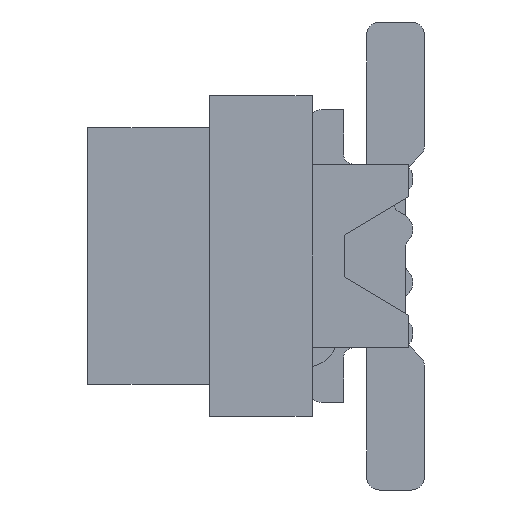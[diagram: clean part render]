
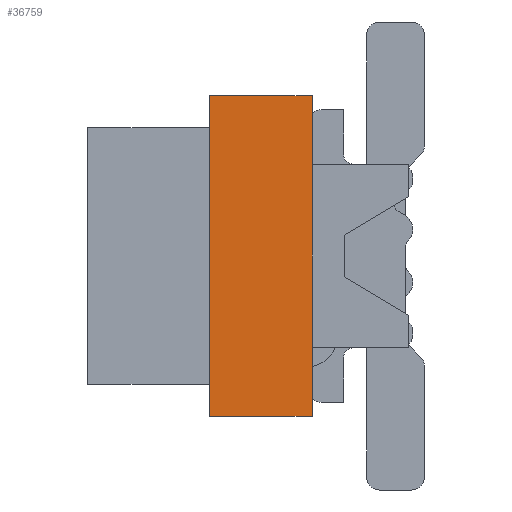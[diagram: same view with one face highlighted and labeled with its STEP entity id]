
A CAD part, left-side view. The second image highlights one B-rep face of the part: STEP entity #36759.
In plain terms, the highlighted planar face has unit normal (-1, 0, 0).
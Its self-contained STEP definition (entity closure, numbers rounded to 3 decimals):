
#70 = CARTESIAN_POINT ( 'NONE',  ( -7.31, -0.15, 2.5 ) ) ;
#987 = VECTOR ( 'NONE', #27084, 1000. ) ;
#1710 = PLANE ( 'NONE',  #24087 ) ;
#1719 = DIRECTION ( 'NONE',  ( 0., 1., 0. ) ) ;
#4773 = DIRECTION ( 'NONE',  ( 0., 0., 1. ) ) ;
#6480 = VECTOR ( 'NONE', #13069, 1000. ) ;
#6814 = CARTESIAN_POINT ( 'NONE',  ( -7.31, -0.15, 2.5 ) ) ;
#7350 = VERTEX_POINT ( 'NONE', #70 ) ;
#7954 = ORIENTED_EDGE ( 'NONE', *, *, #24559, .F. ) ;
#9869 = CARTESIAN_POINT ( 'NONE',  ( -7.31, -1.75, 2.5 ) ) ;
#9890 = VECTOR ( 'NONE', #10081, 1000. ) ;
#10081 = DIRECTION ( 'NONE',  ( 0., -1., 0. ) ) ;
#10793 = ORIENTED_EDGE ( 'NONE', *, *, #27811, .F. ) ;
#12180 = DIRECTION ( 'NONE',  ( -1., 0., 0. ) ) ;
#12874 = ORIENTED_EDGE ( 'NONE', *, *, #17328, .F. ) ;
#12924 = ORIENTED_EDGE ( 'NONE', *, *, #17834, .F. ) ;
#13069 = DIRECTION ( 'NONE',  ( 0., 0., 1. ) ) ;
#13763 = CARTESIAN_POINT ( 'NONE',  ( -7.31, -1.75, -2.5 ) ) ;
#15218 = LINE ( 'NONE', #22214, #41516 ) ;
#15838 = EDGE_LOOP ( 'NONE', ( #10793, #7954, #12874, #12924 ) ) ;
#17328 = EDGE_CURVE ( 'NONE', #24300, #39996, #15218, .T. ) ;
#17834 = EDGE_CURVE ( 'NONE', #36280, #24300, #39940, .T. ) ;
#22214 = CARTESIAN_POINT ( 'NONE',  ( -7.31, -1.75, -2.5 ) ) ;
#22470 = LINE ( 'NONE', #25718, #6480 ) ;
#24087 = AXIS2_PLACEMENT_3D ( 'NONE', #24810, #12180, #4773 ) ;
#24300 = VERTEX_POINT ( 'NONE', #13763 ) ;
#24559 = EDGE_CURVE ( 'NONE', #39996, #7350, #22470, .T. ) ;
#24810 = CARTESIAN_POINT ( 'NONE',  ( -7.31, -1.75, -2.5 ) ) ;
#25718 = CARTESIAN_POINT ( 'NONE',  ( -7.31, -0.15, -2.5 ) ) ;
#27084 = DIRECTION ( 'NONE',  ( 0., 0., -1. ) ) ;
#27811 = EDGE_CURVE ( 'NONE', #7350, #36280, #40785, .T. ) ;
#34673 = CARTESIAN_POINT ( 'NONE',  ( -7.31, -1.75, 2.5 ) ) ;
#36280 = VERTEX_POINT ( 'NONE', #34673 ) ;
#36759 = ADVANCED_FACE ( 'NONE', ( #41587 ), #1710, .T. ) ;
#39634 = CARTESIAN_POINT ( 'NONE',  ( -7.31, -0.15, -2.5 ) ) ;
#39940 = LINE ( 'NONE', #9869, #987 ) ;
#39996 = VERTEX_POINT ( 'NONE', #39634 ) ;
#40785 = LINE ( 'NONE', #6814, #9890 ) ;
#41516 = VECTOR ( 'NONE', #1719, 1000. ) ;
#41587 = FACE_OUTER_BOUND ( 'NONE', #15838, .T. ) ;
